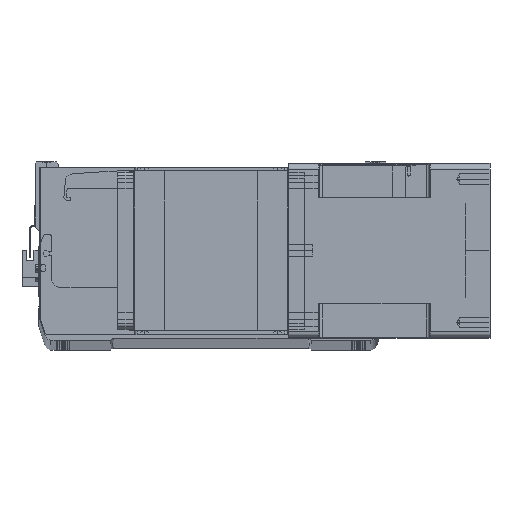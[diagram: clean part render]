
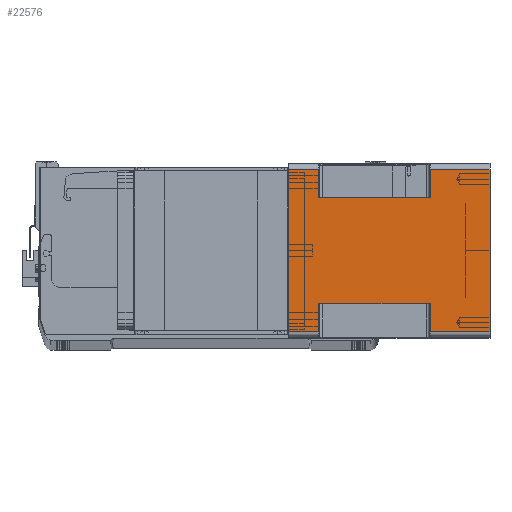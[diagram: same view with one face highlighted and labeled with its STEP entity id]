
A CAD part, top view. The second image highlights one B-rep face of the part: STEP entity #22576.
In plain terms, the highlighted planar face has unit normal (0, 0, 1) as drawn and (1, 0, 0) by its records, which use the part's own axes.
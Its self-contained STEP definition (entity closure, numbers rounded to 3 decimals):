
#135 = DIRECTION ( 'NONE',  ( 0., 1., 0. ) ) ;
#241 = EDGE_CURVE ( 'NONE', #24447, #22460, #15381, .T. ) ;
#988 = CARTESIAN_POINT ( 'NONE',  ( 71., 66., 0. ) ) ;
#1171 = EDGE_CURVE ( 'NONE', #26474, #24194, #13376, .T. ) ;
#1520 = CARTESIAN_POINT ( 'NONE',  ( 71., -43., -164. ) ) ;
#2136 = CARTESIAN_POINT ( 'NONE',  ( 71., 66., -24.5 ) ) ;
#2138 = CARTESIAN_POINT ( 'NONE',  ( 71., -66., -24.5 ) ) ;
#2167 = VERTEX_POINT ( 'NONE', #2948 ) ;
#2346 = VECTOR ( 'NONE', #25224, 1000. ) ;
#2528 = VECTOR ( 'NONE', #7642, 1000. ) ;
#2948 = CARTESIAN_POINT ( 'NONE',  ( 71., 66., -115.5 ) ) ;
#3293 = PLANE ( 'NONE',  #25634 ) ;
#5180 = DIRECTION ( 'NONE',  ( 0., 0., 1. ) ) ;
#6115 = CARTESIAN_POINT ( 'NONE',  ( 71., -66., -164. ) ) ;
#7136 = CARTESIAN_POINT ( 'NONE',  ( 71., -66., -164. ) ) ;
#7642 = DIRECTION ( 'NONE',  ( 0., 1., 0. ) ) ;
#7757 = VECTOR ( 'NONE', #11107, 1000. ) ;
#8453 = EDGE_CURVE ( 'NONE', #19080, #30157, #32729, .T. ) ;
#8924 = EDGE_CURVE ( 'NONE', #24194, #37848, #16145, .T. ) ;
#9018 = EDGE_LOOP ( 'NONE', ( #33088, #32321, #39057, #12443, #12208, #30429, #9673, #26176, #10437, #29804, #10097, #12037 ) ) ;
#9673 = ORIENTED_EDGE ( 'NONE', *, *, #241, .F. ) ;
#10037 = CARTESIAN_POINT ( 'NONE',  ( 71., 43., -115.5 ) ) ;
#10097 = ORIENTED_EDGE ( 'NONE', *, *, #1171, .F. ) ;
#10437 = ORIENTED_EDGE ( 'NONE', *, *, #28260, .T. ) ;
#10566 = CARTESIAN_POINT ( 'NONE',  ( 71., -66., -164. ) ) ;
#11041 = DIRECTION ( 'NONE',  ( 0., 1., 0. ) ) ;
#11090 = LINE ( 'NONE', #23303, #19545 ) ;
#11107 = DIRECTION ( 'NONE',  ( 0., 0., 1. ) ) ;
#11518 = VERTEX_POINT ( 'NONE', #35583 ) ;
#11844 = LINE ( 'NONE', #7136, #2346 ) ;
#12037 = ORIENTED_EDGE ( 'NONE', *, *, #37116, .T. ) ;
#12186 = CARTESIAN_POINT ( 'NONE',  ( 71., 66., -164. ) ) ;
#12208 = ORIENTED_EDGE ( 'NONE', *, *, #35149, .T. ) ;
#12443 = ORIENTED_EDGE ( 'NONE', *, *, #8453, .T. ) ;
#12754 = LINE ( 'NONE', #35079, #37240 ) ;
#12879 = VECTOR ( 'NONE', #11041, 1000. ) ;
#13376 = LINE ( 'NONE', #6115, #36461 ) ;
#13662 = EDGE_CURVE ( 'NONE', #19080, #33345, #11844, .T. ) ;
#13755 = VERTEX_POINT ( 'NONE', #2136 ) ;
#14533 = CARTESIAN_POINT ( 'NONE',  ( 71., 43., -115.5 ) ) ;
#14772 = VECTOR ( 'NONE', #25047, 1000. ) ;
#15184 = CARTESIAN_POINT ( 'NONE',  ( 71., -66., -164. ) ) ;
#15381 = LINE ( 'NONE', #23486, #26273 ) ;
#16145 = LINE ( 'NONE', #17056, #12879 ) ;
#16231 = DIRECTION ( 'NONE',  ( 0., 0., 1. ) ) ;
#16416 = CARTESIAN_POINT ( 'NONE',  ( 71., -66., -164. ) ) ;
#17056 = CARTESIAN_POINT ( 'NONE',  ( 71., -66., 0. ) ) ;
#17284 = VECTOR ( 'NONE', #30485, 1000. ) ;
#17576 = EDGE_CURVE ( 'NONE', #11518, #17809, #21919, .T. ) ;
#17687 = LINE ( 'NONE', #34250, #38832 ) ;
#17809 = VERTEX_POINT ( 'NONE', #21095 ) ;
#18503 = DIRECTION ( 'NONE',  ( 0., 0., 1. ) ) ;
#18627 = CARTESIAN_POINT ( 'NONE',  ( 71., 43., -24.5 ) ) ;
#19080 = VERTEX_POINT ( 'NONE', #16416 ) ;
#19470 = VECTOR ( 'NONE', #26335, 1000. ) ;
#19545 = VECTOR ( 'NONE', #5180, 1000. ) ;
#19663 = LINE ( 'NONE', #36388, #17284 ) ;
#20712 = CARTESIAN_POINT ( 'NONE',  ( 71., -66., -24.5 ) ) ;
#21095 = CARTESIAN_POINT ( 'NONE',  ( 71., -43., -24.5 ) ) ;
#21919 = LINE ( 'NONE', #1520, #7757 ) ;
#22460 = VERTEX_POINT ( 'NONE', #14533 ) ;
#22576 = ADVANCED_FACE ( 'NONE', ( #37715 ), #3293, .T. ) ;
#22859 = LINE ( 'NONE', #10037, #14772 ) ;
#23303 = CARTESIAN_POINT ( 'NONE',  ( 71., 66., -164. ) ) ;
#23457 = CARTESIAN_POINT ( 'NONE',  ( 71., -66., 0. ) ) ;
#23486 = CARTESIAN_POINT ( 'NONE',  ( 71., 43., -164. ) ) ;
#24194 = VERTEX_POINT ( 'NONE', #23457 ) ;
#24344 = EDGE_CURVE ( 'NONE', #11518, #33345, #19663, .T. ) ;
#24447 = VERTEX_POINT ( 'NONE', #18627 ) ;
#25047 = DIRECTION ( 'NONE',  ( 0., -1., 0. ) ) ;
#25224 = DIRECTION ( 'NONE',  ( 0., 0., 1. ) ) ;
#25634 = AXIS2_PLACEMENT_3D ( 'NONE', #15184, #30471, #135 ) ;
#25884 = CARTESIAN_POINT ( 'NONE',  ( 71., -66., -115.5 ) ) ;
#26176 = ORIENTED_EDGE ( 'NONE', *, *, #28728, .T. ) ;
#26273 = VECTOR ( 'NONE', #35894, 1000. ) ;
#26335 = DIRECTION ( 'NONE',  ( 0., 1., 0. ) ) ;
#26474 = VERTEX_POINT ( 'NONE', #20712 ) ;
#26568 = DIRECTION ( 'NONE',  ( 0., 1., 0. ) ) ;
#27489 = LINE ( 'NONE', #2138, #19470 ) ;
#28260 = EDGE_CURVE ( 'NONE', #13755, #37848, #11090, .T. ) ;
#28728 = EDGE_CURVE ( 'NONE', #24447, #13755, #27489, .T. ) ;
#29804 = ORIENTED_EDGE ( 'NONE', *, *, #8924, .F. ) ;
#30157 = VERTEX_POINT ( 'NONE', #12186 ) ;
#30429 = ORIENTED_EDGE ( 'NONE', *, *, #31650, .T. ) ;
#30471 = DIRECTION ( 'NONE',  ( 1., 0., 0. ) ) ;
#30485 = DIRECTION ( 'NONE',  ( 0., -1., 0. ) ) ;
#31650 = EDGE_CURVE ( 'NONE', #2167, #22460, #22859, .T. ) ;
#32321 = ORIENTED_EDGE ( 'NONE', *, *, #24344, .T. ) ;
#32729 = LINE ( 'NONE', #10566, #2528 ) ;
#33088 = ORIENTED_EDGE ( 'NONE', *, *, #17576, .F. ) ;
#33345 = VERTEX_POINT ( 'NONE', #25884 ) ;
#34250 = CARTESIAN_POINT ( 'NONE',  ( 71., 66., -164. ) ) ;
#35079 = CARTESIAN_POINT ( 'NONE',  ( 71., -43., -24.5 ) ) ;
#35149 = EDGE_CURVE ( 'NONE', #30157, #2167, #17687, .T. ) ;
#35583 = CARTESIAN_POINT ( 'NONE',  ( 71., -43., -115.5 ) ) ;
#35894 = DIRECTION ( 'NONE',  ( 0., 0., -1. ) ) ;
#36388 = CARTESIAN_POINT ( 'NONE',  ( 71., -66., -115.5 ) ) ;
#36461 = VECTOR ( 'NONE', #18503, 1000. ) ;
#37116 = EDGE_CURVE ( 'NONE', #26474, #17809, #12754, .T. ) ;
#37240 = VECTOR ( 'NONE', #26568, 1000. ) ;
#37715 = FACE_OUTER_BOUND ( 'NONE', #9018, .T. ) ;
#37848 = VERTEX_POINT ( 'NONE', #988 ) ;
#38832 = VECTOR ( 'NONE', #16231, 1000. ) ;
#39057 = ORIENTED_EDGE ( 'NONE', *, *, #13662, .F. ) ;
